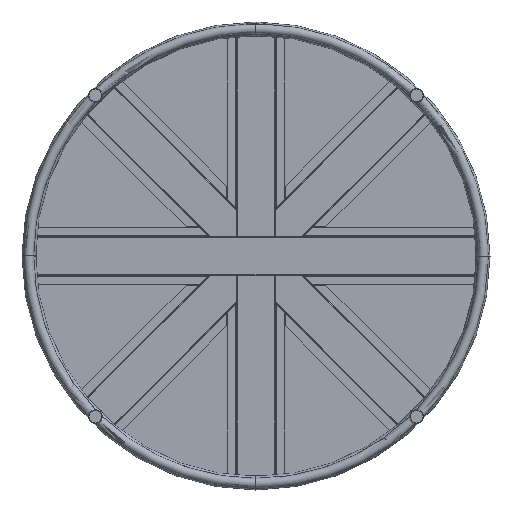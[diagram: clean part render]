
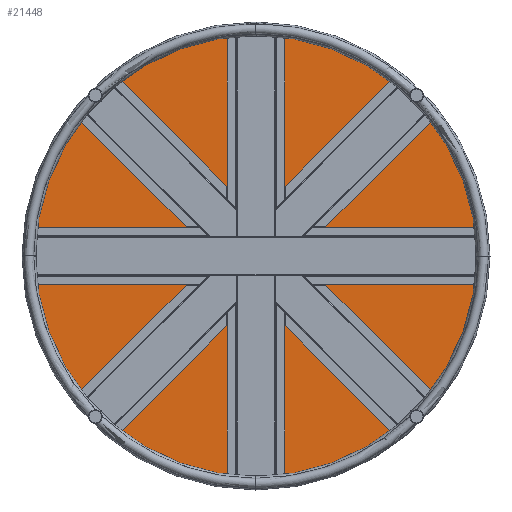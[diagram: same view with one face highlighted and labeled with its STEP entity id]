
A CAD part, front view. The second image highlights one B-rep face of the part: STEP entity #21448.
In plain terms, the highlighted planar face has unit normal (0, -1, 0).
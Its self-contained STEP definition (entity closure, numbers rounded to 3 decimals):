
#693 = CARTESIAN_POINT ( 'NONE',  ( -582.5, -1., 0. ) ) ;
#872 = CIRCLE ( 'NONE', #6131, 582.5 ) ;
#1812 = DIRECTION ( 'NONE',  ( 0., 1., 0. ) ) ;
#2391 = DIRECTION ( 'NONE',  ( 0., 1., 0. ) ) ;
#4617 = VERTEX_POINT ( 'NONE', #16739 ) ;
#5138 = DIRECTION ( 'NONE',  ( 0., -1., 0. ) ) ;
#6131 = AXIS2_PLACEMENT_3D ( 'NONE', #18676, #2391, #20901 ) ;
#7220 = EDGE_CURVE ( 'NONE', #4617, #17587, #872, .T. ) ;
#8132 = PLANE ( 'NONE',  #15354 ) ;
#11942 = ORIENTED_EDGE ( 'NONE', *, *, #23421, .F. ) ;
#15354 = AXIS2_PLACEMENT_3D ( 'NONE', #23645, #5138, #26145 ) ;
#16739 = CARTESIAN_POINT ( 'NONE',  ( 582.5, -1., 0. ) ) ;
#17098 = FACE_OUTER_BOUND ( 'NONE', #24875, .T. ) ;
#17587 = VERTEX_POINT ( 'NONE', #693 ) ;
#18253 = DIRECTION ( 'NONE',  ( -1., 0., 0. ) ) ;
#18676 = CARTESIAN_POINT ( 'NONE',  ( 0., -1., 0. ) ) ;
#20901 = DIRECTION ( 'NONE',  ( -1., 0., 0. ) ) ;
#21448 = ADVANCED_FACE ( 'NONE', ( #17098 ), #8132, .T. ) ;
#22682 = ORIENTED_EDGE ( 'NONE', *, *, #7220, .F. ) ;
#22695 = CARTESIAN_POINT ( 'NONE',  ( 0., -1., 0. ) ) ;
#23421 = EDGE_CURVE ( 'NONE', #17587, #4617, #25583, .T. ) ;
#23645 = CARTESIAN_POINT ( 'NONE',  ( 0., -1., 0. ) ) ;
#24875 = EDGE_LOOP ( 'NONE', ( #11942, #22682 ) ) ;
#25583 = CIRCLE ( 'NONE', #25614, 582.5 ) ;
#25614 = AXIS2_PLACEMENT_3D ( 'NONE', #22695, #1812, #18253 ) ;
#26145 = DIRECTION ( 'NONE',  ( 1., 0., 0. ) ) ;
